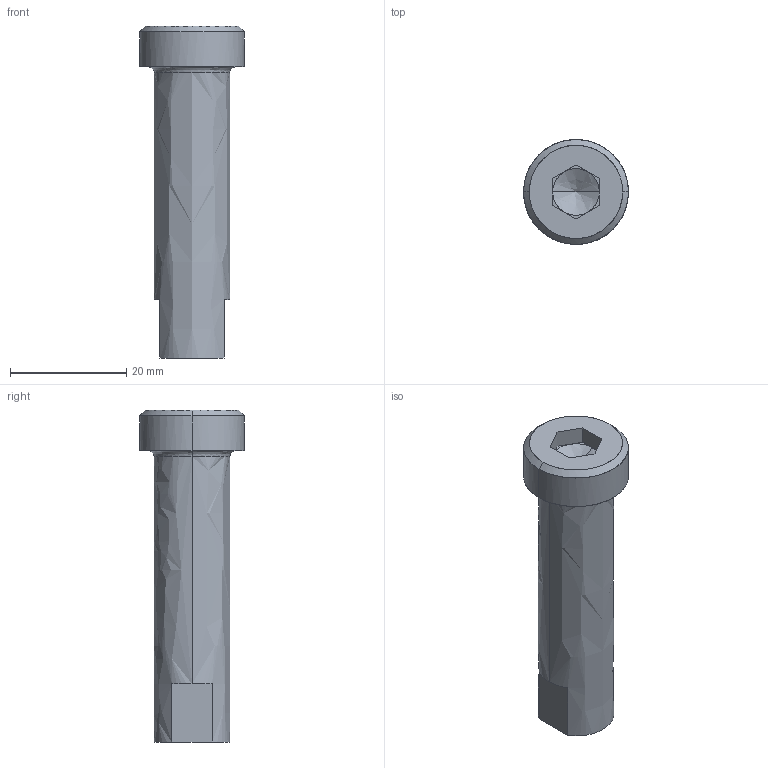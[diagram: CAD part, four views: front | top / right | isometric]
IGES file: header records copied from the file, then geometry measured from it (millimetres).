
Global section: file name: E:\UnigraphicsGraphicData\MISUMI_PRESS-PARTS\IGES\3d_sbtln13-50_05176_r00.igs; native system: NX V5.0; preprocessor: UGS NX IGES V5.0; author: MISUMI; date: 20110105.162504; units: millimetre
Bounding box: 18 x 18 x 57 mm (x, y, z)
Surface area: 3335.1 mm2 (no closed solid volume)
Topology: 0 solids, 0 shells, 36 faces, 202 edges, 198 vertices
Faces by surface type: bspline 36
